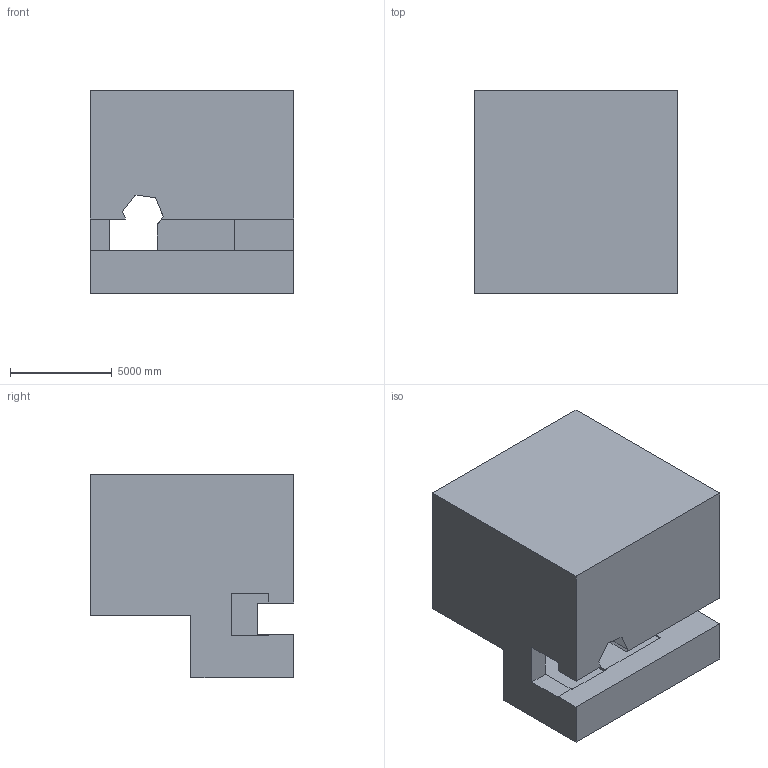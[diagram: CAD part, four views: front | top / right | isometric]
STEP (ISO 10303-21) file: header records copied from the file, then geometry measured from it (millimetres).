
FILE_DESCRIPTION (( 'STEP AP203' ), '1' );
FILE_NAME ('1439.STEP', '2022-08-18T14:28:58', ( 'user' ), ( '' ), 'SwSTEP 2.0', 'SolidWorks 2021', '' );
FILE_SCHEMA (( 'CONFIG_CONTROL_DESIGN' ));
Length unit declared in the file: centimetre
Products named in the file (1): 1439
Bounding box: 10000 x 10000 x 10000 mm (x, y, z)
Volume: 753835907930 mm3; surface area: 650292843.1 mm2
Topology: 1 solids, 1 shells, 38 faces, 114 edges, 76 vertices
Faces by surface type: plane 38
Entity records: 1339 total; most frequent: CARTESIAN_POINT 229, ORIENTED_EDGE 228, DIRECTION 192, VECTOR 114, LINE 114, EDGE_CURVE 114, VERTEX_POINT 76, AXIS2_PLACEMENT_3D 39
